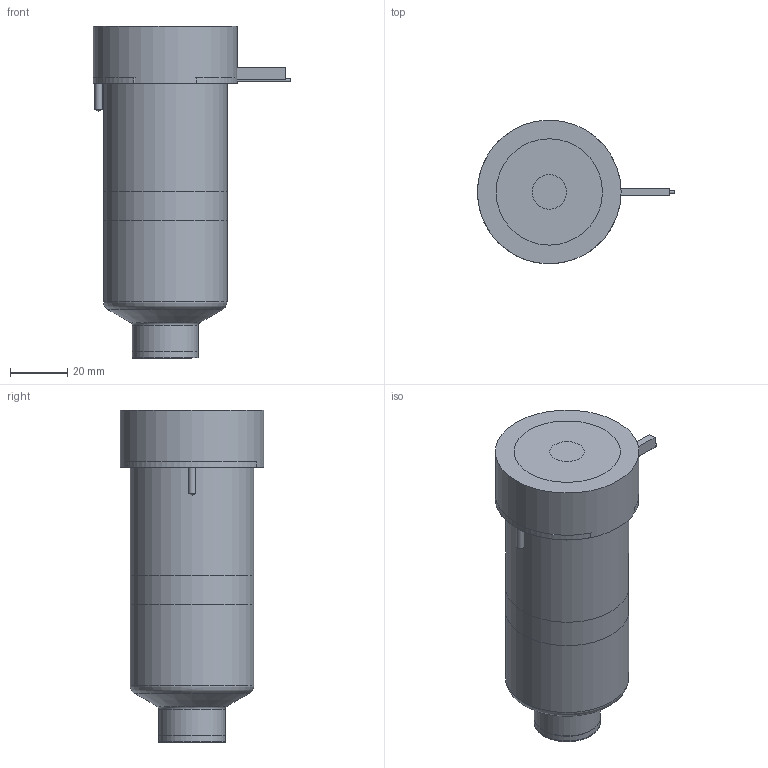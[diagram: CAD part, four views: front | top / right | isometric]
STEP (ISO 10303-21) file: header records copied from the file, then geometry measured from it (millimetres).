
FILE_DESCRIPTION(/* description */ (''),/* implementation_level */ '2;1');
FILE_NAME(/* name */ 'BXTBN-BXIBN-BXOBN27095_250C_b',/* time_stamp */ '2007-01-18T09:58:01+13:00',/* author */ (''),/* organization */ (''),/* preprocessor_version */ 'ST-DEVELOPER v9',/* originating_system */ 'UGS - NX 4.0',/* authorisation */ '');
FILE_SCHEMA (('CONFIG_CONTROL_DESIGN'));
Length unit declared in the file: millimetre
Products named in the file (1): BXTBN-BXIBN-BXOBN27095_250C_b
Bounding box: 68.6 x 50 x 115.51 mm (x, y, z)
Volume: 306315.2 mm3; surface area: 41414.5 mm2
Topology: 6 solids, 6 shells, 74 faces, 148 edges, 96 vertices
Faces by surface type: plane 33, cylinder 23, cone 9, torus 8, bspline 1
Full cylindrical faces by diameter (mm): 1 x3, 2 x1, 2.5 x2, 12 x1, 22.61 x1, 23.01 x2, 27.5 x1, 38.1 x1, 43 x2, 50 x1
Entity records: 1987 total; most frequent: CARTESIAN_POINT 481, DIRECTION 312, ORIENTED_EDGE 230, AXIS2_PLACEMENT_3D 137, EDGE_CURVE 115, EDGE_LOOP 110, VERTEX_POINT 90, ADVANCED_FACE 74
